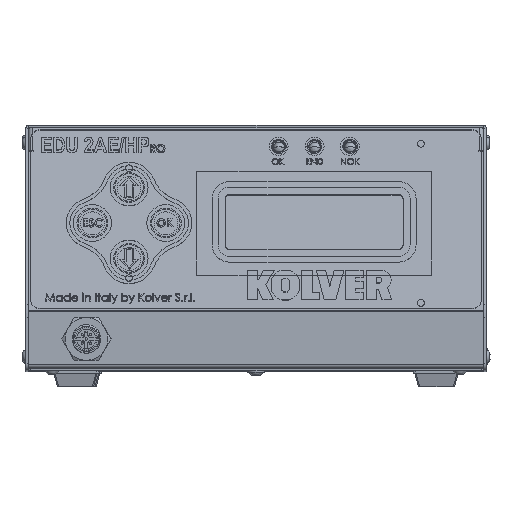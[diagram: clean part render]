
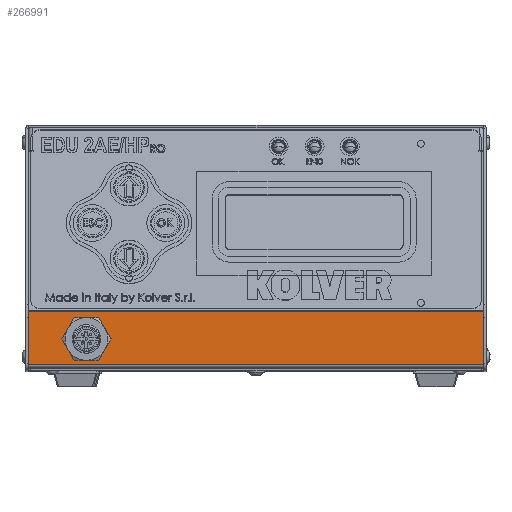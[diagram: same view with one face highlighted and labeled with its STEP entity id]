
A CAD part, top view. The second image highlights one B-rep face of the part: STEP entity #266991.
In plain terms, the highlighted planar face has unit normal (0, 0, 1).
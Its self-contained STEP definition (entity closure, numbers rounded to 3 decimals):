
#14373 = CARTESIAN_POINT ( 'NONE',  ( -65.5, 13.425, 81.5 ) ) ;
#28626 = EDGE_CURVE ( 'NONE', #147146, #116326, #212919, .T. ) ;
#30385 = CARTESIAN_POINT ( 'NONE',  ( -96., 2.737, 81.5 ) ) ;
#31271 = VECTOR ( 'NONE', #267692, 1000. ) ;
#31507 = EDGE_CURVE ( 'NONE', #103204, #251019, #172890, .T. ) ;
#45251 = VECTOR ( 'NONE', #244888, 1000. ) ;
#49394 = AXIS2_PLACEMENT_3D ( 'NONE', #99773, #143575, #213872 ) ;
#49747 = VERTEX_POINT ( 'NONE', #66964 ) ;
#62447 = CARTESIAN_POINT ( 'NONE',  ( 96., 24.903, 81.5 ) ) ;
#66964 = CARTESIAN_POINT ( 'NONE',  ( 96., 2.737, 81.5 ) ) ;
#68641 = EDGE_CURVE ( 'NONE', #49747, #103204, #254650, .T. ) ;
#90582 = LINE ( 'NONE', #181722, #31271 ) ;
#99773 = CARTESIAN_POINT ( 'NONE',  ( -96., 25., 81.5 ) ) ;
#103204 = VERTEX_POINT ( 'NONE', #62447 ) ;
#108547 = CARTESIAN_POINT ( 'NONE',  ( -71.5, 13.425, 81.5 ) ) ;
#111333 = LINE ( 'NONE', #30385, #194972 ) ;
#113615 = VECTOR ( 'NONE', #188789, 1000. ) ;
#114838 = CARTESIAN_POINT ( 'NONE',  ( -76.696, 16.425, 81.5 ) ) ;
#116326 = VERTEX_POINT ( 'NONE', #147785 ) ;
#118498 = AXIS2_PLACEMENT_3D ( 'NONE', #218509, #239936, #171603 ) ;
#125360 = EDGE_CURVE ( 'NONE', #49747, #238230, #111333, .T. ) ;
#143575 = DIRECTION ( 'NONE',  ( 0., 0., -1. ) ) ;
#144013 = ORIENTED_EDGE ( 'NONE', *, *, #252870, .T. ) ;
#144629 = ORIENTED_EDGE ( 'NONE', *, *, #209744, .F. ) ;
#147146 = VERTEX_POINT ( 'NONE', #242780 ) ;
#147342 = ORIENTED_EDGE ( 'NONE', *, *, #267735, .F. ) ;
#147785 = CARTESIAN_POINT ( 'NONE',  ( -76.696, 10.425, 81.5 ) ) ;
#153414 = DIRECTION ( 'NONE',  ( 0., 0., 1. ) ) ;
#160733 = AXIS2_PLACEMENT_3D ( 'NONE', #108547, #153414, #161063 ) ;
#161063 = DIRECTION ( 'NONE',  ( 1., 0., 0. ) ) ;
#166319 = CARTESIAN_POINT ( 'NONE',  ( 96., 24.903, 81.5 ) ) ;
#167578 = EDGE_LOOP ( 'NONE', ( #222415, #144013, #243511, #288153 ) ) ;
#168036 = ORIENTED_EDGE ( 'NONE', *, *, #28626, .F. ) ;
#171570 = CARTESIAN_POINT ( 'NONE',  ( -96., 24.903, 81.5 ) ) ;
#171603 = DIRECTION ( 'NONE',  ( 1., 0., 0. ) ) ;
#172890 = LINE ( 'NONE', #166319, #113615 ) ;
#181722 = CARTESIAN_POINT ( 'NONE',  ( -96., 2., 81.5 ) ) ;
#187565 = VERTEX_POINT ( 'NONE', #14373 ) ;
#188626 = CIRCLE ( 'NONE', #160733, 6. ) ;
#188789 = DIRECTION ( 'NONE',  ( -1., 0., 0. ) ) ;
#194972 = VECTOR ( 'NONE', #230286, 1000. ) ;
#202239 = VECTOR ( 'NONE', #203582, 1000. ) ;
#203582 = DIRECTION ( 'NONE',  ( 0., -1., 0. ) ) ;
#205133 = FACE_BOUND ( 'NONE', #225355, .T. ) ;
#209744 = EDGE_CURVE ( 'NONE', #187565, #147146, #188626, .T. ) ;
#212919 = LINE ( 'NONE', #114838, #202239 ) ;
#213872 = DIRECTION ( 'NONE',  ( -1., 0., 0. ) ) ;
#218509 = CARTESIAN_POINT ( 'NONE',  ( -71.5, 13.425, 81.5 ) ) ;
#222403 = CARTESIAN_POINT ( 'NONE',  ( 96., 25., 81.5 ) ) ;
#222415 = ORIENTED_EDGE ( 'NONE', *, *, #31507, .T. ) ;
#225355 = EDGE_LOOP ( 'NONE', ( #168036, #144629, #147342 ) ) ;
#226179 = FACE_OUTER_BOUND ( 'NONE', #167578, .T. ) ;
#230286 = DIRECTION ( 'NONE',  ( -1., 0., 0. ) ) ;
#238230 = VERTEX_POINT ( 'NONE', #240537 ) ;
#239936 = DIRECTION ( 'NONE',  ( 0., 0., 1. ) ) ;
#240537 = CARTESIAN_POINT ( 'NONE',  ( -96., 2.737, 81.5 ) ) ;
#242780 = CARTESIAN_POINT ( 'NONE',  ( -76.696, 16.425, 81.5 ) ) ;
#243511 = ORIENTED_EDGE ( 'NONE', *, *, #125360, .F. ) ;
#244888 = DIRECTION ( 'NONE',  ( 0., 1., 0. ) ) ;
#251019 = VERTEX_POINT ( 'NONE', #171570 ) ;
#252870 = EDGE_CURVE ( 'NONE', #251019, #238230, #90582, .T. ) ;
#254650 = LINE ( 'NONE', #222403, #45251 ) ;
#260067 = CIRCLE ( 'NONE', #118498, 6. ) ;
#266991 = ADVANCED_FACE ( 'NONE', ( #205133, #226179 ), #279204, .F. ) ;
#267692 = DIRECTION ( 'NONE',  ( 0., -1., 0. ) ) ;
#267735 = EDGE_CURVE ( 'NONE', #116326, #187565, #260067, .T. ) ;
#279204 = PLANE ( 'NONE',  #49394 ) ;
#288153 = ORIENTED_EDGE ( 'NONE', *, *, #68641, .T. ) ;
